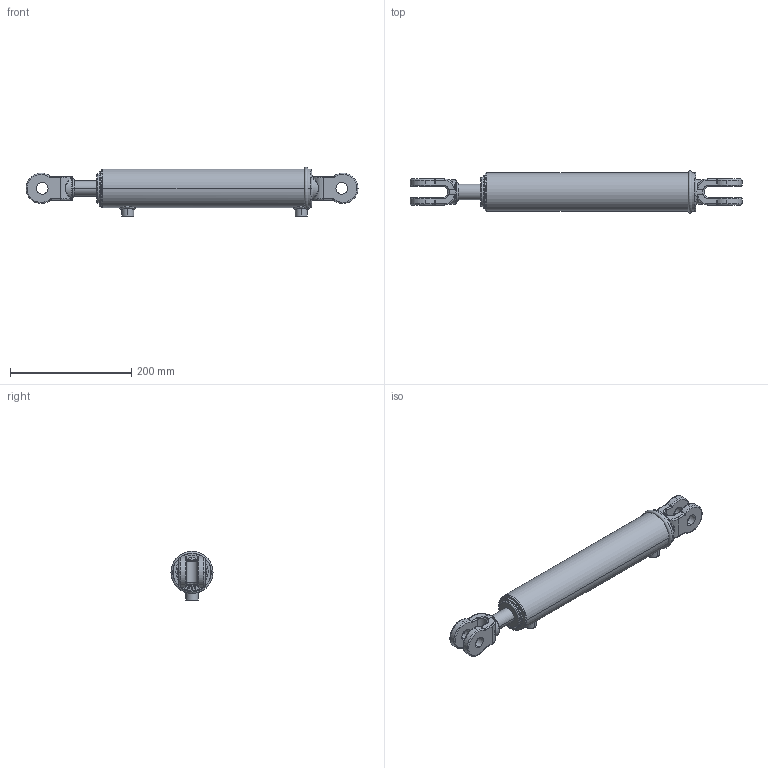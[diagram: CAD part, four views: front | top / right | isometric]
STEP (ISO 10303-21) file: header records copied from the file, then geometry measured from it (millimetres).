
FILE_DESCRIPTION (( 'STEP AP203' ), '1' );
FILE_NAME ('CL-CL200100x254 (10).STEP', '2014-11-20T22:17:26', ( '' ), ( '' ), 'SwSTEP 2.0', 'SolidWorks 2014', '' );
FILE_SCHEMA (( 'CONFIG_CONTROL_DESIGN' ));
Length unit declared in the file: millimetre
Products named in the file (5): CL-CL150075x254 (10) BODY; 2 inch ext circlip; CL-CL200100x254 (10) BODY; 10 SPARE; CL-CL200100x254 (10)
Assembly tree (4 placements, depth 3):
  CL-CL200100x254 (10)
    CL-CL200100x254 (10) BODY
      CL-CL150075x254 (10) BODY
      2 inch ext circlip
    10 SPARE
Bounding box: 548.41 x 69.5 x 81.5 mm (x, y, z)
Volume: 1363928.5 mm3; surface area: 153781.2 mm2
Topology: 3 solids, 3 shells, 284 faces, 701 edges, 419 vertices
Faces by surface type: bspline 117, cylinder 108, plane 37, torus 14, cone 8
Entity records: 24865 total; most frequent: CARTESIAN_POINT 18431, ORIENTED_EDGE 1370, DIRECTION 1046, EDGE_CURVE 685, AXIS2_PLACEMENT_3D 435, VERTEX_POINT 419, EDGE_LOOP 308, ADVANCED_FACE 284
